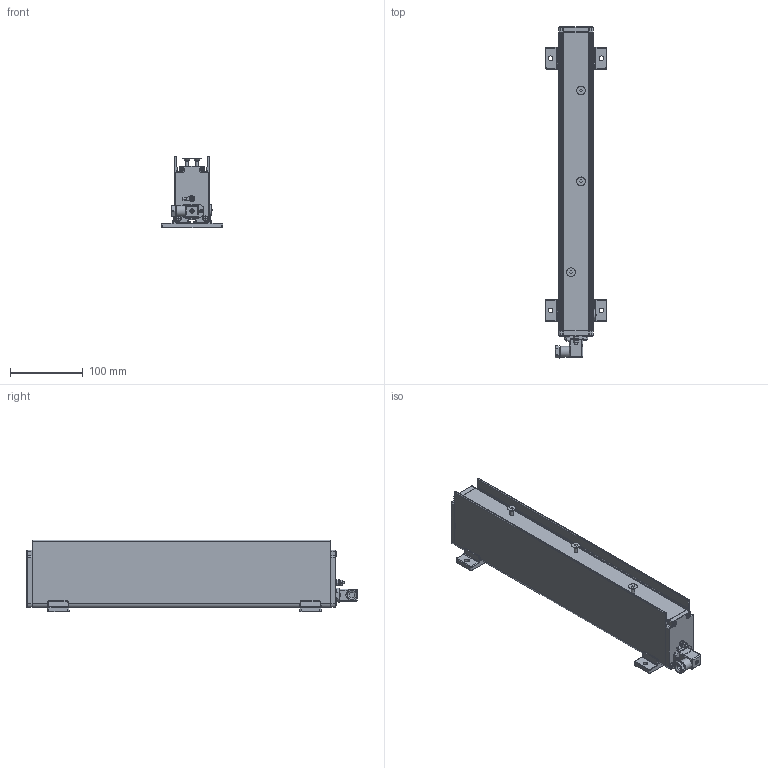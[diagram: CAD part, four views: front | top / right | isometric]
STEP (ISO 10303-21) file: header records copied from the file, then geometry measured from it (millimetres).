
FILE_DESCRIPTION(('ONLY FOR INFORMATION','HiCAD-Model','HiCAD-STEP-TRANSLATION'),'2;1');
FILE_NAME('Q:/##','2010-00-00',('D&E Department'),('Simco (Nederland) B.V.','Aalsvoort 74','NL-7241 MB LOCHEM','www.simco-ion.nl'),' HiCAD neXt 2008, Step 3.1.1401.2F ','HiCAD neXt 2008','confidential');
FILE_SCHEMA(('AUTOMOTIVE_DESIGN { 1 2 10303 214 0 1 1 1 }'));
Products named in the file (4): SIMCO_THUNDERION_250; BRACKET; BRACKET_2; THUNDERION_250
Assembly tree (3 placements, depth 2):
  SIMCO_THUNDERION_250
    BRACKET
    BRACKET_2
    THUNDERION_250
Bounding box: 85 x 456.68 x 98.3 mm (x, y, z)
Volume: 1549465 mm3; surface area: 213925.8 mm2
Topology: 4 solids, 30 shells, 1677 faces, 4162 edges, 2588 vertices
Faces by surface type: plane 660, cylinder 590, bspline 144, torus 139, cone 115, sphere 29
Full cylindrical faces by diameter (mm): 1.5 x2, 1.948 x2, 2.387 x1, 2.5 x3, 2.6 x2, 2.64 x8, 2.7 x4, 3 x2, 3.141 x1, 3.2 x2, 3.5 x5, 4 x13, 4.2 x1, 4.4 x1, 4.5 x5, 5.6 x1, 6 x2, 6.7 x2, 7.3 x8, 8.2 x1, 9 x1, 9.853 x2, 12 x1, 12.5 x1, 14.8 x1, 15 x1
Entity records: 80389 total; most frequent: CARTESIAN_POINT 15513, ORIENTED_EDGE 7788, DIRECTION 7473, COLOUR_RGB 4776, PRESENTATION_STYLE_ASSIGNMENT 4776, OVER_RIDING_STYLED_ITEM 4773, EDGE_CURVE 3894, CURVE_STYLE 3563
